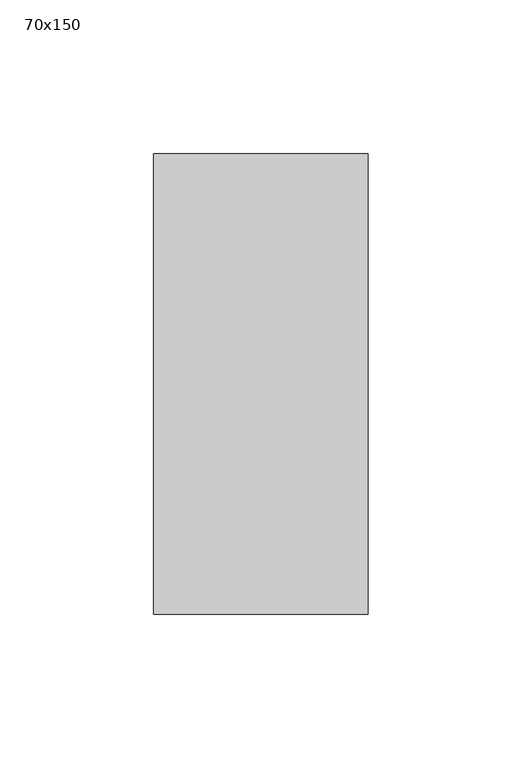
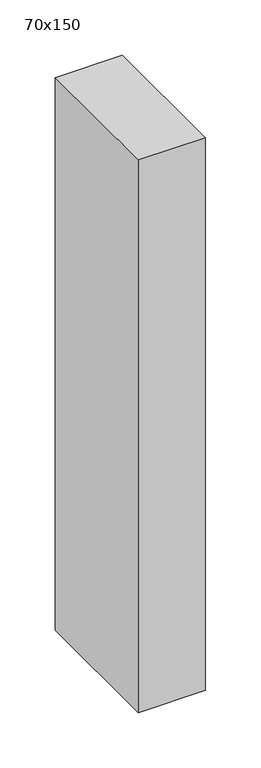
"""IFC4 building model written with IfcOpenShell, lengths in millimetres: member geometry, 長方形のマリオン : 70x150."""

from ifc_helpers import new_model, si_unit, frame, origin, place, context, project, spatial, polyline, outline, extrude, source, transform, mapped, element, save


def member_70x150_9f54f7b5(model_context):
    return source(origin(), model_context, "Body", "SweptSolid", [
        extrude(outline(polyline([(0.0, 75.0), (0.0, -75.0), (-70.0, -75.0), (-70.0, 75.0), (0.0, 75.0)])), frame((0.0, 0.0, -610.0), z_axis=(0.0, 0.0, 1.0), x_axis=(1.0, 0.0, 0.0)), (0.0, 0.0, 1.0), 610.0),
    ])


if __name__ == "__main__":
    model = new_model("IFC4")
    model_context = context("Model", 3, world=origin())
    ifc_project = project(units=[si_unit("LENGTHUNIT", "METRE", prefix="MILLI")], contexts=[model_context])
    site = spatial("IfcSite", under=ifc_project)
    building = spatial("IfcBuilding", under=site)
    placement = place(None, origin())
    member_70x150_shape = member_70x150_9f54f7b5(model_context)
    element("IfcMember", 1, ObjectType="長方形のマリオン : 70x150", at=placement, inside=building, context=model_context, shape_type="MappedRepresentation", body=[
        mapped(member_70x150_shape, transform((0.0, 0.0, 0.0), x_axis=(1.0, 0.0, 0.0), y_axis=(0.0, 1.0, 0.0), z_axis=(0.0, 0.0, 1.0))),
    ])
    save(model, "model.ifc")
